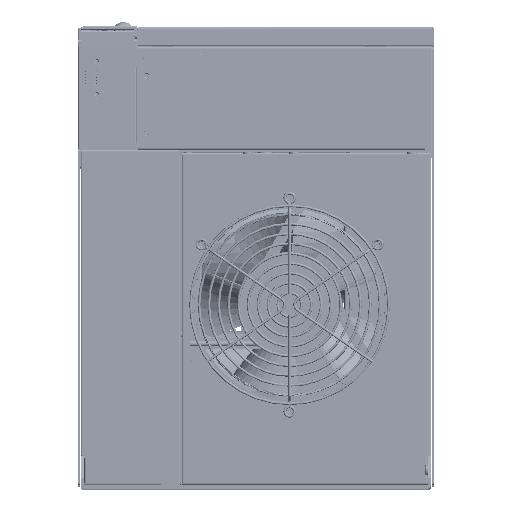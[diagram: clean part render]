
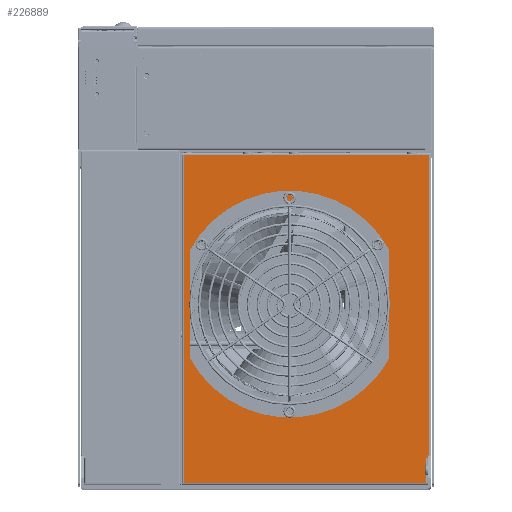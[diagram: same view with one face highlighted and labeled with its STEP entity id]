
A CAD part, top view. The second image highlights one B-rep face of the part: STEP entity #226889.
In plain terms, the highlighted planar face has unit normal (0, 0, 1).
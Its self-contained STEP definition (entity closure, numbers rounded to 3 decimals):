
#225213=DIRECTION('',(0.,1.,0.));
#225214=VECTOR('',#225213,2.);
#225215=CARTESIAN_POINT('',(130.3,23.5,235.));
#225216=LINE('',#225215,#225214);
#225220=DIRECTION('',(1.,0.,0.));
#225221=VECTOR('',#225220,1.7);
#225222=CARTESIAN_POINT('',(128.6,23.5,235.));
#225223=LINE('',#225222,#225221);
#225227=DIRECTION('',(-1.,0.,0.));
#225228=VECTOR('',#225227,1.);
#225229=CARTESIAN_POINT('',(131.3,25.5,235.));
#225230=LINE('',#225229,#225228);
#225234=CARTESIAN_POINT('',(25.5,140.,235.));
#225235=DIRECTION('',(0.,0.,1.));
#225236=DIRECTION('',(0.,-1.,0.));
#225237=AXIS2_PLACEMENT_3D('',#225234,#225235,#225236);
#225242=CARTESIAN_POINT('',(25.5,140.,235.));
#225243=DIRECTION('',(0.,0.,1.));
#225244=DIRECTION('',(0.,1.,0.));
#225245=AXIS2_PLACEMENT_3D('',#225242,#225243,#225244);
#225250=CARTESIAN_POINT('',(91.809,185.573,235.));
#225251=DIRECTION('',(0.,0.,1.));
#225252=DIRECTION('',(-1.,0.,0.));
#225253=AXIS2_PLACEMENT_3D('',#225250,#225251,#225252);
#225258=CARTESIAN_POINT('',(91.809,185.573,235.));
#225259=DIRECTION('',(0.,0.,1.));
#225260=DIRECTION('',(1.,0.,0.));
#225261=AXIS2_PLACEMENT_3D('',#225258,#225259,#225260);
#225266=CARTESIAN_POINT('',(25.5,59.54,235.));
#225267=DIRECTION('',(0.,0.,1.));
#225268=DIRECTION('',(-1.,0.,0.));
#225269=AXIS2_PLACEMENT_3D('',#225266,#225267,#225268);
#225274=CARTESIAN_POINT('',(25.5,59.54,235.));
#225275=DIRECTION('',(0.,0.,1.));
#225276=DIRECTION('',(1.,0.,0.));
#225277=AXIS2_PLACEMENT_3D('',#225274,#225275,#225276);
#225282=CARTESIAN_POINT('',(-40.809,185.573,235.));
#225283=DIRECTION('',(0.,0.,1.));
#225284=DIRECTION('',(-1.,0.,0.));
#225285=AXIS2_PLACEMENT_3D('',#225282,#225283,#225284);
#225290=CARTESIAN_POINT('',(-40.809,185.573,235.));
#225291=DIRECTION('',(0.,0.,1.));
#225292=DIRECTION('',(1.,0.,0.));
#225293=AXIS2_PLACEMENT_3D('',#225290,#225291,#225292);
#225426=DIRECTION('',(0.,-1.,0.));
#225427=VECTOR('',#225426,227.8);
#225428=CARTESIAN_POINT('',(131.3,253.3,235.));
#225429=LINE('',#225428,#225427);
#225600=DIRECTION('',(1.,0.,0.));
#225601=VECTOR('',#225600,186.1);
#225602=CARTESIAN_POINT('',(-54.8,253.3,235.));
#225603=LINE('',#225602,#225601);
#225924=DIRECTION('',(0.,1.,0.));
#225925=VECTOR('',#225924,248.9);
#225926=CARTESIAN_POINT('',(-54.8,4.4,235.));
#225927=LINE('',#225926,#225925);
#226049=DIRECTION('',(-1.,0.,0.));
#226050=VECTOR('',#226049,183.4);
#226051=CARTESIAN_POINT('',(128.6,4.4,235.));
#226052=LINE('',#226051,#226050);
#226149=DIRECTION('',(0.,-1.,0.));
#226150=VECTOR('',#226149,19.1);
#226151=CARTESIAN_POINT('',(128.6,23.5,235.));
#226152=LINE('',#226151,#226150);
#226614=CARTESIAN_POINT('',(130.3,25.5,235.));
#226616=VERTEX_POINT('',#226614);
#226618=CARTESIAN_POINT('',(25.5,66.,235.));
#226619=CARTESIAN_POINT('',(25.5,214.,235.));
#226620=VERTEX_POINT('',#226618);
#226621=VERTEX_POINT('',#226619);
#226626=CARTESIAN_POINT('',(89.109,185.573,235.));
#226627=CARTESIAN_POINT('',(94.509,185.573,235.));
#226628=VERTEX_POINT('',#226626);
#226629=VERTEX_POINT('',#226627);
#226634=CARTESIAN_POINT('',(22.8,59.54,235.));
#226635=CARTESIAN_POINT('',(28.2,59.54,235.));
#226636=VERTEX_POINT('',#226634);
#226637=VERTEX_POINT('',#226635);
#226642=CARTESIAN_POINT('',(-43.509,185.573,235.));
#226643=CARTESIAN_POINT('',(-38.109,185.573,235.));
#226644=VERTEX_POINT('',#226642);
#226645=VERTEX_POINT('',#226643);
#226698=CARTESIAN_POINT('',(131.3,253.3,235.));
#226699=VERTEX_POINT('',#226698);
#226708=CARTESIAN_POINT('',(131.3,25.5,235.));
#226709=VERTEX_POINT('',#226708);
#226718=CARTESIAN_POINT('',(-54.8,4.4,235.));
#226719=VERTEX_POINT('',#226718);
#226722=CARTESIAN_POINT('',(-54.8,253.3,235.));
#226723=VERTEX_POINT('',#226722);
#226802=CARTESIAN_POINT('',(128.6,4.4,235.));
#226803=VERTEX_POINT('',#226802);
#226806=CARTESIAN_POINT('',(128.6,23.5,235.));
#226807=CARTESIAN_POINT('',(130.3,23.5,235.));
#226808=VERTEX_POINT('',#226806);
#226809=VERTEX_POINT('',#226807);
#226842=CARTESIAN_POINT('',(-135.,0.,235.));
#226843=DIRECTION('',(0.,0.,-1.));
#226844=DIRECTION('',(-1.,0.,0.));
#226845=AXIS2_PLACEMENT_3D('',#226842,#226843,#226844);
#226846=PLANE('',#226845);
#226848=ORIENTED_EDGE('',*,*,#226847,.F.);
#226850=ORIENTED_EDGE('',*,*,#226849,.F.);
#226852=ORIENTED_EDGE('',*,*,#226851,.T.);
#226854=ORIENTED_EDGE('',*,*,#226853,.T.);
#226856=ORIENTED_EDGE('',*,*,#226855,.T.);
#226858=ORIENTED_EDGE('',*,*,#226857,.T.);
#226860=ORIENTED_EDGE('',*,*,#226859,.T.);
#226862=ORIENTED_EDGE('',*,*,#226861,.T.);
#226863=EDGE_LOOP('',(#226848,#226850,#226852,#226854,#226856,#226858,#226860,
#226862));
#226864=FACE_OUTER_BOUND('',#226863,.F.);
#226866=ORIENTED_EDGE('',*,*,#226865,.T.);
#226868=ORIENTED_EDGE('',*,*,#226867,.T.);
#226869=EDGE_LOOP('',(#226866,#226868));
#226870=FACE_BOUND('',#226869,.F.);
#226872=ORIENTED_EDGE('',*,*,#226871,.T.);
#226874=ORIENTED_EDGE('',*,*,#226873,.T.);
#226875=EDGE_LOOP('',(#226872,#226874));
#226876=FACE_BOUND('',#226875,.F.);
#226878=ORIENTED_EDGE('',*,*,#226877,.T.);
#226880=ORIENTED_EDGE('',*,*,#226879,.T.);
#226881=EDGE_LOOP('',(#226878,#226880));
#226882=FACE_BOUND('',#226881,.F.);
#226884=ORIENTED_EDGE('',*,*,#226883,.T.);
#226886=ORIENTED_EDGE('',*,*,#226885,.T.);
#226887=EDGE_LOOP('',(#226884,#226886));
#226888=FACE_BOUND('',#226887,.F.);
#225238=CIRCLE('',#225237,74.);
#225246=CIRCLE('',#225245,74.);
#225254=CIRCLE('',#225253,2.7);
#225262=CIRCLE('',#225261,2.7);
#225270=CIRCLE('',#225269,2.7);
#225278=CIRCLE('',#225277,2.7);
#225286=CIRCLE('',#225285,2.7);
#225294=CIRCLE('',#225293,2.7);
#226847=EDGE_CURVE('',#226809,#226616,#225216,.T.);
#226849=EDGE_CURVE('',#226808,#226809,#225223,.T.);
#226851=EDGE_CURVE('',#226808,#226803,#226152,.T.);
#226853=EDGE_CURVE('',#226803,#226719,#226052,.T.);
#226855=EDGE_CURVE('',#226719,#226723,#225927,.T.);
#226857=EDGE_CURVE('',#226723,#226699,#225603,.T.);
#226859=EDGE_CURVE('',#226699,#226709,#225429,.T.);
#226861=EDGE_CURVE('',#226709,#226616,#225230,.T.);
#226865=EDGE_CURVE('',#226620,#226621,#225238,.T.);
#226867=EDGE_CURVE('',#226621,#226620,#225246,.T.);
#226871=EDGE_CURVE('',#226628,#226629,#225254,.T.);
#226873=EDGE_CURVE('',#226629,#226628,#225262,.T.);
#226877=EDGE_CURVE('',#226636,#226637,#225270,.T.);
#226879=EDGE_CURVE('',#226637,#226636,#225278,.T.);
#226883=EDGE_CURVE('',#226644,#226645,#225286,.T.);
#226885=EDGE_CURVE('',#226645,#226644,#225294,.T.);
#226889=ADVANCED_FACE('',(#226864,#226870,#226876,#226882,#226888),#226846,.F.);
